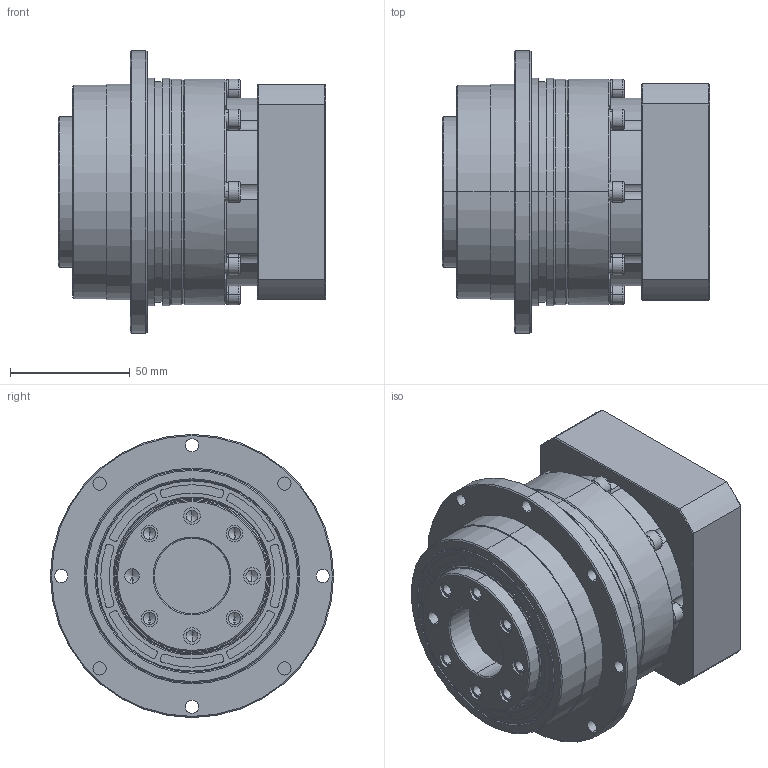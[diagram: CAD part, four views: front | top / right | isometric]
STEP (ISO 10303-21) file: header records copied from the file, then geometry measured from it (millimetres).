
FILE_DESCRIPTION (( 'STEP AP214' ), '1' );
FILE_NAME ('VRT-090-L1-P1 19-70-90-M6.STEP', '2025-03-01T06:57:15', ( '微软用户' ), ( '微软中国' ), 'SwSTEP 2.0', 'SolidWorks 2021', '' );
FILE_SCHEMA (( 'AUTOMOTIVE_DESIGN' ));
Length unit declared in the file: millimetre
Products named in the file (14): 珨撰幗渀粣創VRT-090 8x11.146x16.4; 笢潔楊擘AKD90; spring lock washers--normal type gb_GB_FASTENER_WASHER_SW 5; hexagon socket head cap screws gb_GB_FASTENER_SCREWS_HSHCS M6X20-N; 萇儂楊擘VRT-090 D70-M5-90F90H28.5; VRT-090-L1-P1 19-70-90-M6; 一级齿圈VRT-090外形图; 標杶VRT-090 D19; VRT-090一级整体太阳轮D19外形图; hex socket set screws with flat point gb_GB_FASTENER_SCREWS_HSFP M12X12-N; hexagon socket head cap screws gb_GB_FASTENER_SCREWS_HSHCS M5X20-N; 蚐猾65x80x7; hexagon socket head cap screws gb_GB_FASTENER_SCREWS_HSHCS M5X30-N; 一级输出轴VRT-090外形图
Assembly tree (38 placements, depth 2):
  VRT-090-L1-P1 19-70-90-M6
    一级齿圈VRT-090外形图
    一级输出轴VRT-090外形图
    笢潔楊擘AKD90
    VRT-090一级整体太阳轮D19外形图
    珨撰幗渀粣創VRT-090 8x11.146x16.4
    標杶VRT-090 D19
    萇儂楊擘VRT-090 D70-M5-90F90H28.5
    蚐猾65x80x7
    spring lock washers--normal type gb_GB_FASTENER_WASHER_SW 5  x14
    hexagon socket head cap screws gb_GB_FASTENER_SCREWS_HSHCS M5X30-N  x8
    hexagon socket head cap screws gb_GB_FASTENER_SCREWS_HSHCS M6X20-N
    hexagon socket head cap screws gb_GB_FASTENER_SCREWS_HSHCS M5X20-N  x6
    hex socket set screws with flat point gb_GB_FASTENER_SCREWS_HSFP M12X12-N
Bounding box: 111.5 x 118 x 118 mm (x, y, z)
Volume: 563581.1 mm3; surface area: 149964.2 mm2
Topology: 38 solids, 38 shells, 1163 faces, 2820 edges, 1742 vertices
Faces by surface type: plane 457, cylinder 451, cone 215, torus 40
Entity records: 32259 total; most frequent: CARTESIAN_POINT 5691, DIRECTION 4106, ORIENTED_EDGE 3544, EDGE_CURVE 1772, AXIS2_PLACEMENT_3D 1677, VERTEX_POINT 1138, CIRCLE 903, EDGE_LOOP 864
